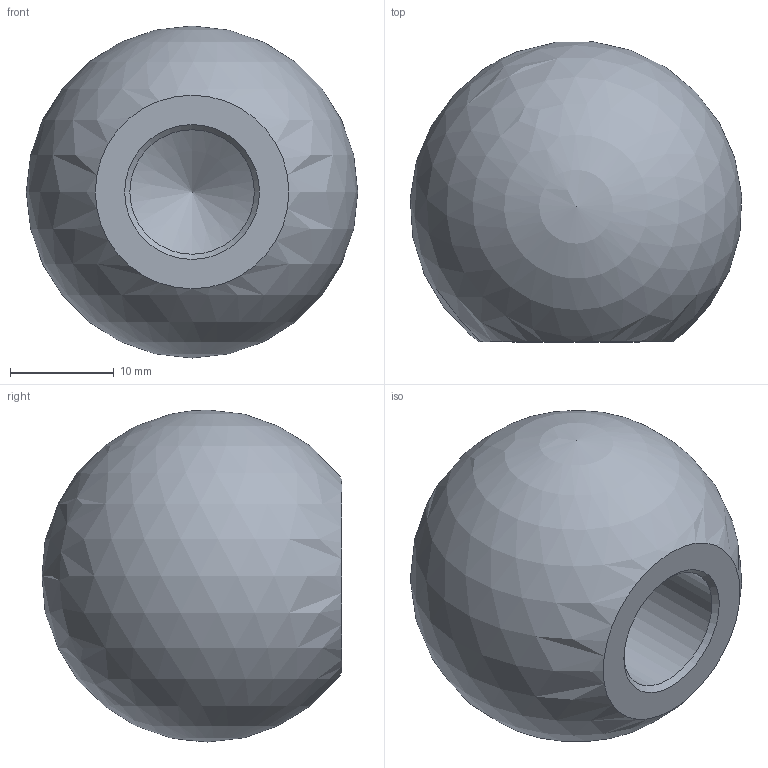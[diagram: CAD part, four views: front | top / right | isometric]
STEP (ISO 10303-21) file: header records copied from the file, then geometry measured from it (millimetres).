
FILE_DESCRIPTION (( 'STEP AP214' ), '1' );
FILE_NAME ('319-ST-32-B12-K.step', '2019-04-24T08:49:31', ( 'user' ), ( '' ), 'SwSTEP 2.0', 'SolidWorks 2019', '' );
FILE_SCHEMA (( 'AUTOMOTIVE_DESIGN' ));
Length unit declared in the file: millimetre
Products named in the file (1): 319-ST-32-B12-K
Bounding box: 31.94 x 28.91 x 32 mm (x, y, z)
Volume: 14217.6 mm3; surface area: 3988.5 mm2
Topology: 1 solids, 1 shells, 7 faces, 14 edges, 9 vertices
Faces by surface type: plane 2, cone 2, cylinder 2, sphere 1
Full cylindrical faces by diameter (mm): 11.998 x1, 12 x1
Entity records: 168 total; most frequent: DIRECTION 28, CARTESIAN_POINT 20, AXIS2_PLACEMENT_3D 14, EDGE_LOOP 12, ORIENTED_EDGE 12, FACE_OUTER_BOUND 9, ADVANCED_FACE 7, VERTEX_POINT 6
